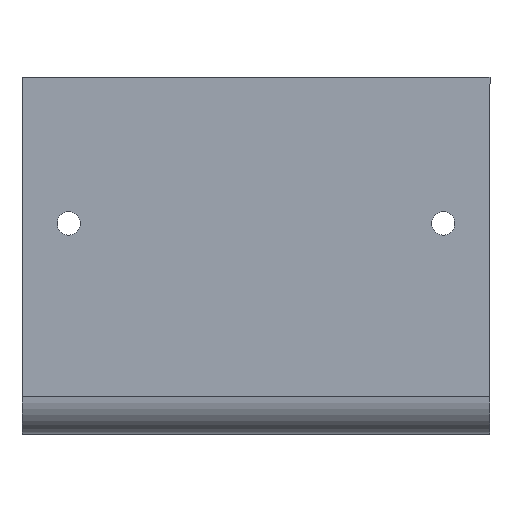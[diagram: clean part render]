
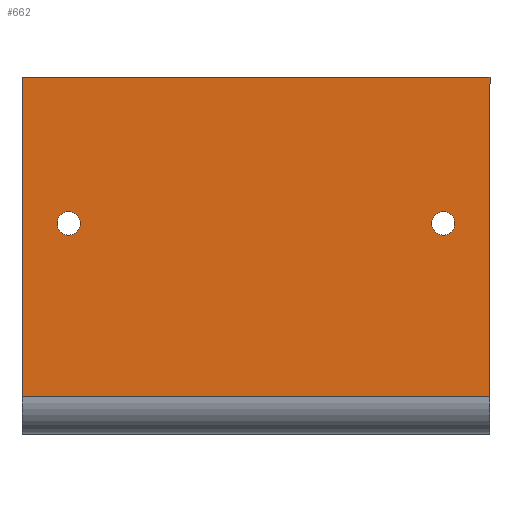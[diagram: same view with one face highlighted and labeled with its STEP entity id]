
A CAD part, top view. The second image highlights one B-rep face of the part: STEP entity #662.
In plain terms, the highlighted planar face has unit normal (0, 0, 1).
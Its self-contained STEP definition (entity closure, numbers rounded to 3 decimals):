
#4 = CIRCLE ( 'NONE', #570, 2.5 ) ;
#13 = PLANE ( 'NONE',  #57 ) ;
#20 = ORIENTED_EDGE ( 'NONE', *, *, #227, .T. ) ;
#22 = EDGE_CURVE ( 'NONE', #398, #195, #152, .T. ) ;
#29 = VECTOR ( 'NONE', #235, 1000. ) ;
#55 = CARTESIAN_POINT ( 'NONE',  ( -40., 47.5, 0. ) ) ;
#57 = AXIS2_PLACEMENT_3D ( 'NONE', #728, #210, #665 ) ;
#70 = FACE_OUTER_BOUND ( 'NONE', #715, .T. ) ;
#73 = DIRECTION ( 'NONE',  ( -1., 0., 0. ) ) ;
#78 = VECTOR ( 'NONE', #307, 1000. ) ;
#110 = VERTEX_POINT ( 'NONE', #732 ) ;
#115 = DIRECTION ( 'NONE',  ( 0., -1., 0. ) ) ;
#116 = VERTEX_POINT ( 'NONE', #162 ) ;
#126 = EDGE_CURVE ( 'NONE', #183, #273, #4, .T. ) ;
#127 = LINE ( 'NONE', #472, #29 ) ;
#140 = DIRECTION ( 'NONE',  ( 0., -1., 0. ) ) ;
#152 = LINE ( 'NONE', #378, #78 ) ;
#155 = AXIS2_PLACEMENT_3D ( 'NONE', #166, #449, #115 ) ;
#162 = CARTESIAN_POINT ( 'NONE',  ( 50., 76.2, 0. ) ) ;
#164 = EDGE_CURVE ( 'NONE', #519, #110, #667, .T. ) ;
#166 = CARTESIAN_POINT ( 'NONE',  ( 40., 45., 0. ) ) ;
#176 = LINE ( 'NONE', #695, #630 ) ;
#183 = VERTEX_POINT ( 'NONE', #55 ) ;
#195 = VERTEX_POINT ( 'NONE', #335 ) ;
#206 = ORIENTED_EDGE ( 'NONE', *, *, #616, .T. ) ;
#210 = DIRECTION ( 'NONE',  ( 0., 0., 1. ) ) ;
#211 = DIRECTION ( 'NONE',  ( 0., 0., -1. ) ) ;
#216 = DIRECTION ( 'NONE',  ( 0., -1., 0. ) ) ;
#226 = CARTESIAN_POINT ( 'NONE',  ( 40., 42.5, 0. ) ) ;
#227 = EDGE_CURVE ( 'NONE', #116, #398, #361, .T. ) ;
#235 = DIRECTION ( 'NONE',  ( 0., 1., 0. ) ) ;
#241 = CARTESIAN_POINT ( 'NONE',  ( 50., 76.2, 0. ) ) ;
#273 = VERTEX_POINT ( 'NONE', #414 ) ;
#279 = DIRECTION ( 'NONE',  ( 1., 0., 0. ) ) ;
#307 = DIRECTION ( 'NONE',  ( 0., -1., 0. ) ) ;
#320 = VECTOR ( 'NONE', #73, 1000. ) ;
#332 = ORIENTED_EDGE ( 'NONE', *, *, #22, .T. ) ;
#335 = CARTESIAN_POINT ( 'NONE',  ( -50., 8., 0. ) ) ;
#345 = EDGE_CURVE ( 'NONE', #546, #116, #127, .T. ) ;
#349 = EDGE_LOOP ( 'NONE', ( #622, #368 ) ) ;
#361 = LINE ( 'NONE', #241, #320 ) ;
#368 = ORIENTED_EDGE ( 'NONE', *, *, #164, .T. ) ;
#378 = CARTESIAN_POINT ( 'NONE',  ( -50., 8., 0. ) ) ;
#391 = AXIS2_PLACEMENT_3D ( 'NONE', #528, #474, #140 ) ;
#398 = VERTEX_POINT ( 'NONE', #426 ) ;
#399 = CARTESIAN_POINT ( 'NONE',  ( -40., 45., 0. ) ) ;
#414 = CARTESIAN_POINT ( 'NONE',  ( -40., 42.5, 0. ) ) ;
#426 = CARTESIAN_POINT ( 'NONE',  ( -50., 76.2, 0. ) ) ;
#429 = CIRCLE ( 'NONE', #681, 2.5 ) ;
#449 = DIRECTION ( 'NONE',  ( 0., 0., -1. ) ) ;
#465 = CIRCLE ( 'NONE', #391, 2.5 ) ;
#472 = CARTESIAN_POINT ( 'NONE',  ( 50., 8., 0. ) ) ;
#474 = DIRECTION ( 'NONE',  ( 0., 0., -1. ) ) ;
#485 = ORIENTED_EDGE ( 'NONE', *, *, #513, .T. ) ;
#513 = EDGE_CURVE ( 'NONE', #195, #546, #176, .T. ) ;
#517 = FACE_BOUND ( 'NONE', #649, .T. ) ;
#519 = VERTEX_POINT ( 'NONE', #226 ) ;
#528 = CARTESIAN_POINT ( 'NONE',  ( 40., 45., 0. ) ) ;
#546 = VERTEX_POINT ( 'NONE', #613 ) ;
#569 = DIRECTION ( 'NONE',  ( 0., -1., 0. ) ) ;
#570 = AXIS2_PLACEMENT_3D ( 'NONE', #739, #211, #216 ) ;
#574 = FACE_BOUND ( 'NONE', #349, .T. ) ;
#586 = ORIENTED_EDGE ( 'NONE', *, *, #345, .T. ) ;
#613 = CARTESIAN_POINT ( 'NONE',  ( 50., 8., 0. ) ) ;
#616 = EDGE_CURVE ( 'NONE', #273, #183, #429, .T. ) ;
#622 = ORIENTED_EDGE ( 'NONE', *, *, #682, .T. ) ;
#630 = VECTOR ( 'NONE', #279, 1000. ) ;
#649 = EDGE_LOOP ( 'NONE', ( #711, #206 ) ) ;
#662 = ADVANCED_FACE ( 'NONE', ( #517, #574, #70 ), #13, .T. ) ;
#665 = DIRECTION ( 'NONE',  ( 1., 0., 0. ) ) ;
#667 = CIRCLE ( 'NONE', #155, 2.5 ) ;
#681 = AXIS2_PLACEMENT_3D ( 'NONE', #399, #686, #569 ) ;
#682 = EDGE_CURVE ( 'NONE', #110, #519, #465, .T. ) ;
#686 = DIRECTION ( 'NONE',  ( 0., 0., -1. ) ) ;
#695 = CARTESIAN_POINT ( 'NONE',  ( 50., 8., 0. ) ) ;
#711 = ORIENTED_EDGE ( 'NONE', *, *, #126, .T. ) ;
#715 = EDGE_LOOP ( 'NONE', ( #586, #20, #332, #485 ) ) ;
#728 = CARTESIAN_POINT ( 'NONE',  ( 50., 8., 0. ) ) ;
#732 = CARTESIAN_POINT ( 'NONE',  ( 40., 47.5, 0. ) ) ;
#739 = CARTESIAN_POINT ( 'NONE',  ( -40., 45., 0. ) ) ;
